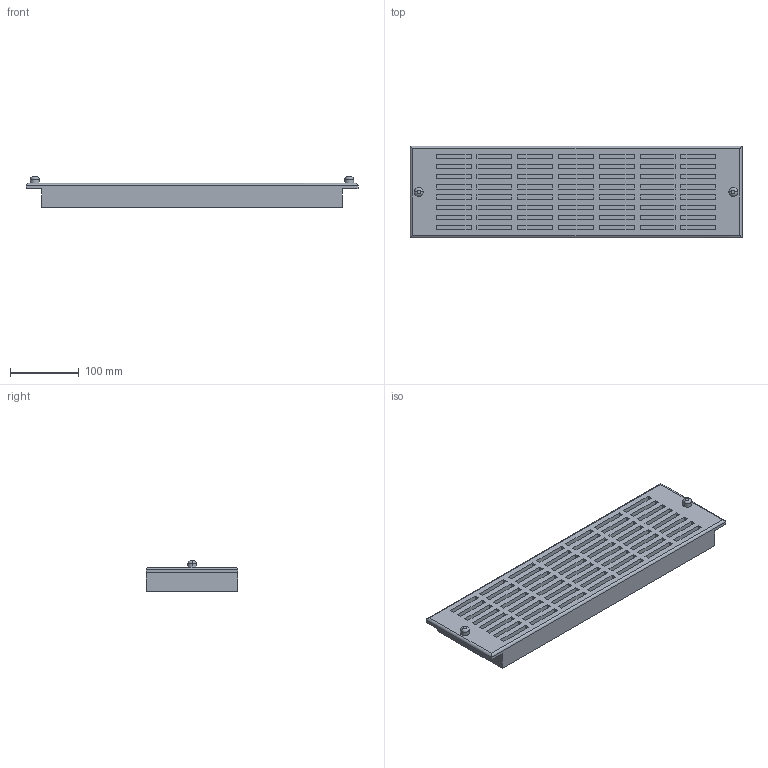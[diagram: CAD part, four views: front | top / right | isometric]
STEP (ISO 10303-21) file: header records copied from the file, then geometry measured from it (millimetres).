
FILE_DESCRIPTION (( 'STEP AP203' ), '1' );
FILE_NAME ('525g19.STEP', '2013-07-23T13:25:57', ( 'User' ), ( 'Pentair Inc' ), 'SwSTEP 2.0', 'SolidWorks 2010', '' );
FILE_SCHEMA (( 'CONFIG_CONTROL_DESIGN' ));
Length unit declared in the file: inch
Products named in the file (1): 525g19
Bounding box: 482.6 x 133.35 x 44.32 mm (x, y, z)
Volume: 1927284 mm3; surface area: 219741.8 mm2
Topology: 1 solids, 1 shells, 304 faces, 724 edges, 480 vertices
Faces by surface type: plane 292, cylinder 8, torus 4
Entity records: 8679 total; most frequent: CARTESIAN_POINT 1521, ORIENTED_EDGE 1448, DIRECTION 1346, EDGE_CURVE 724, VECTOR 704, LINE 704, VERTEX_POINT 480, EDGE_LOOP 362
